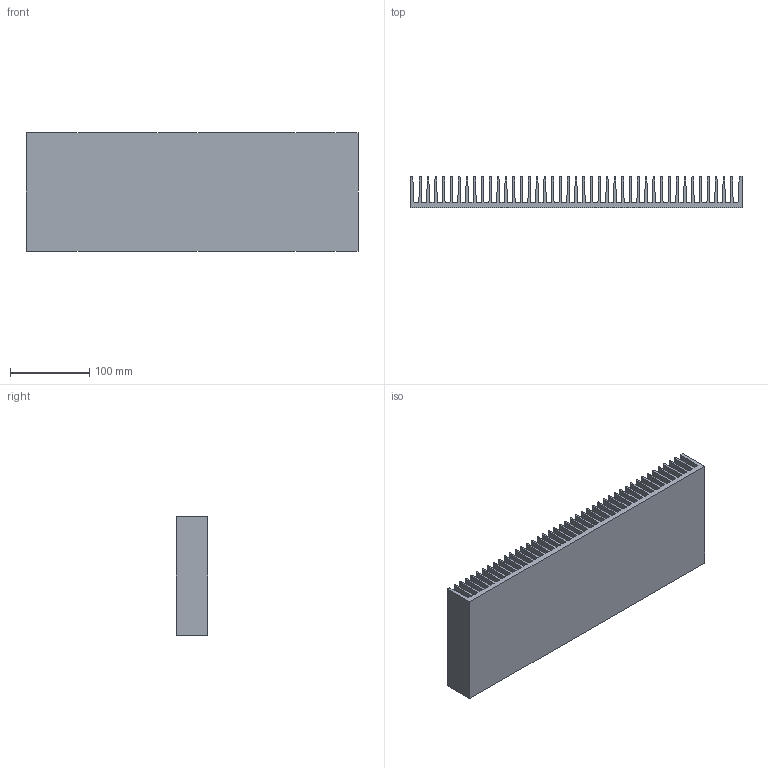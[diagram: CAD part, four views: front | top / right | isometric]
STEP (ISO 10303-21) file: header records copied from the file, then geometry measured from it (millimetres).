
FILE_DESCRIPTION (( 'STEP AP203' ), '1' );
FILE_NAME ('PR 300-150.step', '2002-10-21T08:50:02', ( 'Wolfgang Müller' ), ( 'DPS' ), 'SwSTEP 2.0', 'SolidWorks 2002264', '' );
FILE_SCHEMA (( 'CONFIG_CONTROL_DESIGN' ));
Length unit declared in the file: millimetre
Products named in the file (1): PR 300-150
Bounding box: 420 x 40 x 150 mm (x, y, z)
Volume: 1034570.6 mm3; surface area: 550085.9 mm2
Topology: 1 solids, 1 shells, 260 faces, 774 edges, 516 vertices
Faces by surface type: plane 133, cylinder 127
Entity records: 8869 total; most frequent: CARTESIAN_POINT 1551, DIRECTION 1550, ORIENTED_EDGE 1548, EDGE_CURVE 774, LINE 520, VECTOR 520, VERTEX_POINT 516, AXIS2_PLACEMENT_3D 515
